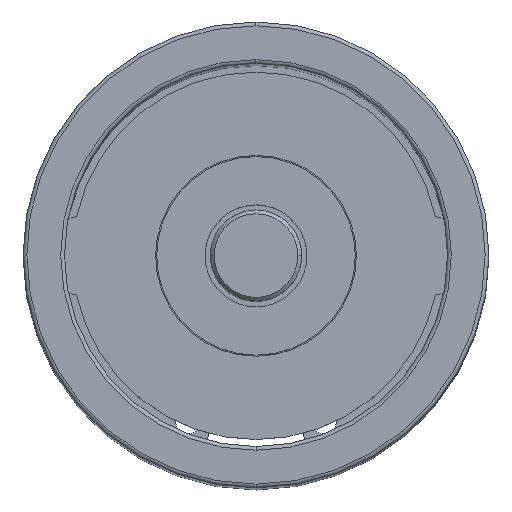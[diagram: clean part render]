
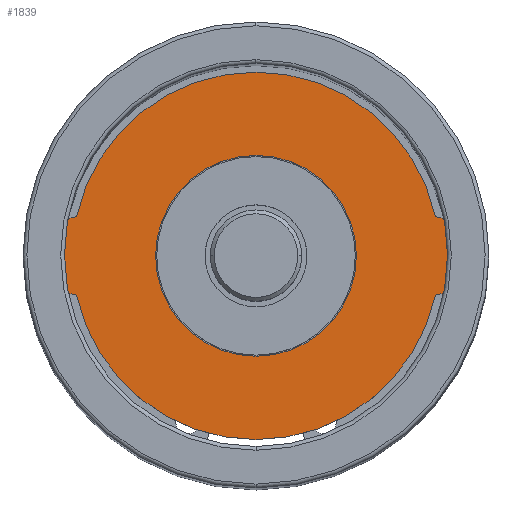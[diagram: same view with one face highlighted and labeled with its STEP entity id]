
A CAD part, top view. The second image highlights one B-rep face of the part: STEP entity #1839.
In plain terms, the highlighted planar face has unit normal (0, 0, 1).
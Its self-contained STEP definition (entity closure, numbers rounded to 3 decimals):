
#1701=CARTESIAN_POINT('',(13.2,0.,0.));
#1702=VERTEX_POINT('',#1701);
#1718=CARTESIAN_POINT('',(-13.2,0.,0.0));
#1719=VERTEX_POINT('',#1718);
#1726=CARTESIAN_POINT('',(0.0,0.,0.0));
#1727=DIRECTION('',(0.0,0.0,-1.0));
#1728=DIRECTION('',(1.0,0.0,0.0));
#1729=AXIS2_PLACEMENT_3D('',#1726,#1727,#1728);
#1730=CIRCLE('',#1729,13.2);
#1731=EDGE_CURVE('',#1702,#1719,#1730,.T.);
#1742=CARTESIAN_POINT('',(0.0,0.,0.0));
#1743=DIRECTION('',(0.0,0.0,-1.0));
#1744=DIRECTION('',(1.0,0.0,0.0));
#1745=AXIS2_PLACEMENT_3D('',#1742,#1743,#1744);
#1746=CIRCLE('',#1745,13.2);
#1747=EDGE_CURVE('',#1719,#1702,#1746,.T.);
#1767=CARTESIAN_POINT('',(-23.593,5.157,0.));
#1768=VERTEX_POINT('',#1767);
#1784=CARTESIAN_POINT('',(-23.593,-5.157,0.));
#1785=VERTEX_POINT('',#1784);
#1792=CARTESIAN_POINT('',(-22.925,0.,0.));
#1793=DIRECTION('',(0.0,0.0,-1.0));
#1794=DIRECTION('',(1.0,0.0,0.0));
#1795=AXIS2_PLACEMENT_3D('',#1792,#1793,#1794);
#1796=CIRCLE('',#1795,5.2);
#1797=EDGE_CURVE('',#1785,#1768,#1796,.T.);
#1802=CARTESIAN_POINT('',(0.0,0.,0.));
#1803=DIRECTION('',(0.0,0.0,1.0));
#1804=DIRECTION('',(1.0,0.0,0.0));
#1805=AXIS2_PLACEMENT_3D('',#1802,#1803,#1804);
#1806=PLANE('',#1805);
#1807=CARTESIAN_POINT('',(23.593,-5.157,0.));
#1808=VERTEX_POINT('',#1807);
#1809=CARTESIAN_POINT('',(0.0,0.,0.));
#1810=DIRECTION('',(0.0,0.0,-1.0));
#1811=DIRECTION('',(1.0,0.0,0.0));
#1812=AXIS2_PLACEMENT_3D('',#1809,#1810,#1811);
#1813=CIRCLE('',#1812,24.15);
#1814=EDGE_CURVE('',#1808,#1785,#1813,.T.);
#1815=ORIENTED_EDGE('',*,*,#1814,.F.);
#1816=CARTESIAN_POINT('',(23.593,5.157,0.));
#1817=VERTEX_POINT('',#1816);
#1818=CARTESIAN_POINT('',(22.925,0.,0.));
#1819=DIRECTION('',(0.0,0.0,-1.0));
#1820=DIRECTION('',(1.0,0.0,0.0));
#1821=AXIS2_PLACEMENT_3D('',#1818,#1819,#1820);
#1822=CIRCLE('',#1821,5.2);
#1823=EDGE_CURVE('',#1817,#1808,#1822,.T.);
#1824=ORIENTED_EDGE('',*,*,#1823,.F.);
#1825=CARTESIAN_POINT('',(0.0,0.,0.));
#1826=DIRECTION('',(0.0,0.0,-1.0));
#1827=DIRECTION('',(1.0,0.0,0.0));
#1828=AXIS2_PLACEMENT_3D('',#1825,#1826,#1827);
#1829=CIRCLE('',#1828,24.15);
#1830=EDGE_CURVE('',#1768,#1817,#1829,.T.);
#1831=ORIENTED_EDGE('',*,*,#1830,.F.);
#1832=ORIENTED_EDGE('',*,*,#1797,.F.);
#1833=EDGE_LOOP('',(#1815,#1824,#1831,#1832));
#1834=FACE_OUTER_BOUND('',#1833,.T.);
#1835=ORIENTED_EDGE('',*,*,#1731,.T.);
#1836=ORIENTED_EDGE('',*,*,#1747,.T.);
#1837=EDGE_LOOP('',(#1835,#1836));
#1838=FACE_BOUND('',#1837,.T.);
#1839=ADVANCED_FACE('',(#1834,#1838),#1806,.T.);
